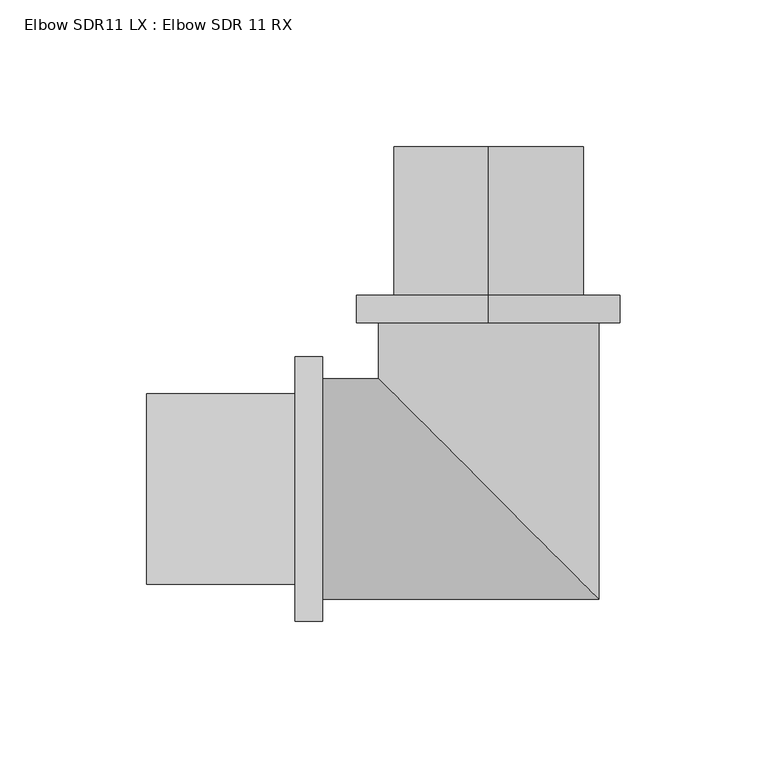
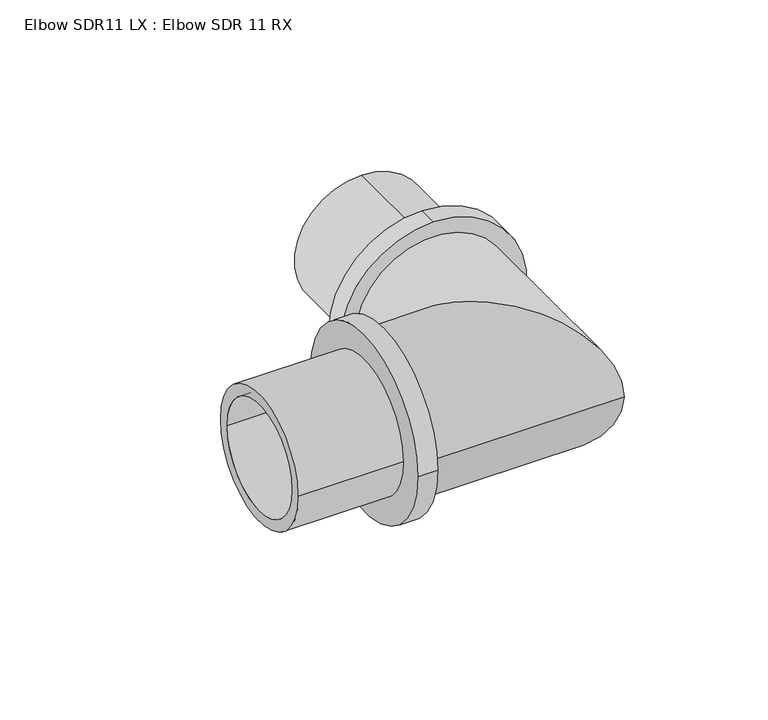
"""IFC4 building model written with IfcOpenShell, lengths in millimetres: pipe fitting geometry, Elbow SDR11 LX : Elbow SDR 11 RX."""

from ifc_helpers import new_model, si_unit, frame, origin, place, context, project, spatial, polyline, circle_curve, ellipse_curve, source, transform, mapped, element, save
from ifc_brep_helpers import plane_surface, cylinder_surface, revolved_surface, advanced_brep


def elbow_sdr11_lx_elbow_sdr_11_rx_da30d1f9(model_context):
    return source(origin(), model_context, "Body", "AdvancedBrep", [
        advanced_brep(
        [(-56.6, -37.5, 0.0), (-56.6, 37.5, 0.0), (-56.6, -27.0, 0.0), (-56.6, 27.0, 0.0), (37.5, -37.5, 0.0), (-37.5, 37.5, 0.0), (27.0, -27.0, 0.0), (-27.0, 27.0, 0.0), (37.5, 56.6, 0.0), (-37.5, 56.6, 0.0), (27.0, 56.6, 0.0), (-27.0, 56.6, 0.0)],
        [
            (0, 1, circle_curve(frame((-56.6, 0.0, 0.0), z_axis=(-1.0, 0.0, 0.0), x_axis=(0.0, 1.0, 0.0)), 37.5)),
            (1, 0, circle_curve(frame((-56.6, 0.0, 0.0), z_axis=(-1.0, 0.0, 0.0), x_axis=(0.0, 1.0, 0.0)), 37.5)),
            (2, 3, circle_curve(frame((-56.6, 0.0, 0.0), z_axis=(1.0, 0.0, 0.0), x_axis=(0.0, 1.0, 0.0)), 27.0)),
            (3, 2, circle_curve(frame((-56.6, 0.0, 0.0), z_axis=(1.0, 0.0, 0.0), x_axis=(0.0, 1.0, 0.0)), 27.0)),
            (0, 4),
            (4, 5, ellipse_curve(frame((0.0, 0.0, 0.0), z_axis=(-0.7071067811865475, -0.7071067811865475, 0.0), x_axis=(-0.7071067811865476, 0.7071067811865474, 0.0)), 53.0330086, 37.5)),
            (5, 1),
            (5, 4, ellipse_curve(frame((0.0, 0.0, 0.0), z_axis=(-0.7071067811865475, -0.7071067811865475, 0.0), x_axis=(-0.7071067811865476, 0.7071067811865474, 0.0)), 53.0330086, 37.5)),
            (2, 6),
            (6, 7, ellipse_curve(frame((0.0, 0.0, 0.0), z_axis=(0.7071067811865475, 0.7071067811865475, 0.0), x_axis=(0.7071067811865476, -0.7071067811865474, 0.0)), 38.1837662, 27.0)),
            (7, 3),
            (7, 6, ellipse_curve(frame((0.0, 0.0, 0.0), z_axis=(0.7071067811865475, 0.7071067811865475, 0.0), x_axis=(0.7071067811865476, -0.7071067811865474, 0.0)), 38.1837662, 27.0)),
            (8, 9, circle_curve(frame((0.0, 56.6, 0.0), z_axis=(0.0, 1.0, 0.0), x_axis=(-1.0, 0.0, 0.0)), 37.5)),
            (9, 8, circle_curve(frame((0.0, 56.6, 0.0), z_axis=(0.0, 1.0, 0.0), x_axis=(-1.0, 0.0, 0.0)), 37.5)),
            (10, 11, circle_curve(frame((0.0, 56.6, 0.0), z_axis=(0.0, -1.0, 0.0), x_axis=(-1.0, 0.0, 0.0)), 27.0)),
            (11, 10, circle_curve(frame((0.0, 56.6, 0.0), z_axis=(0.0, -1.0, 0.0), x_axis=(-1.0, 0.0, 0.0)), 27.0)),
            (4, 8),
            (9, 5),
            (6, 10),
            (11, 7),
        ],
        [
            plane_surface(frame((-56.6, 0.0, 0.0), z_axis=(-1.0, 0.0, 0.0), x_axis=(0.0, 0.0, 1.0))),
            cylinder_surface(frame((-56.6, 0.0, 0.0), z_axis=(-1.0, 0.0, 0.0), x_axis=(0.0, 1.0, 0.0)), 37.5),
            revolved_surface(polyline([(27.000000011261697, 27.0, 0.0), (-56.6, 27.0, 0.0)]), (-56.6, 0.0, 0.0), (1.0, 0.0, 0.0)),
            plane_surface(frame((0.0, 56.6, 0.0), z_axis=(0.0, 1.0, 0.0), x_axis=(0.0, 0.0, 1.0))),
            cylinder_surface(frame((0.0, 0.0, 0.0), z_axis=(0.0, -1.0, 0.0), x_axis=(-1.0, 0.0, 0.0)), 37.5),
            revolved_surface(polyline([(-27.0, 56.6, 0.0), (-27.0, -27.000000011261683, 0.0)]), (0.0, 0.0, 0.0), (0.0, 1.0, 0.0)),
        ],
        [
            (0, [[1, 2], [3, 4]]),
            (1, [[-1, 5, 6, 7]]),
            (1, [[-2, -7, 8, -5]]),
            (2, [[-3, 9, 10, 11]]),
            (2, [[-4, -11, 12, -9]]),
            (3, [[13, 14], [15, 16]]),
            (4, [[-6, 17, -14, 18]]),
            (4, [[-8, -18, -13, -17]]),
            (5, [[-10, 19, -16, 20]]),
            (5, [[-12, -20, -15, -19]]),
        ],
    ),
        advanced_brep(
        [(0.0, 116.5, 27.0), (0.0, 116.5, -27.0), (0.0, 56.6, -27.0), (0.0, 56.6, 27.0), (0.0, 66.0, 32.5), (0.0, 66.0, -32.5), (0.0, 116.5, -32.5), (0.0, 116.5, 32.5), (0.0, 56.6, 45.0), (0.0, 56.6, -45.0), (0.0, 66.0, -45.0), (0.0, 66.0, 45.0)],
        [
            (0, 1, circle_curve(frame((0.0, 116.5, 0.0), z_axis=(0.0, 1.0, 0.0), x_axis=(0.0, 0.0, -1.0)), 27.0)),
            (1, 2),
            (2, 3, circle_curve(frame((0.0, 56.6, 0.0), z_axis=(0.0, -1.0, 0.0), x_axis=(0.0, 0.0, -1.0)), 27.0)),
            (3, 0),
            (4, 5, circle_curve(frame((0.0, 66.0, 0.0), z_axis=(0.0, 1.0, 0.0), x_axis=(0.0, 0.0, -1.0)), 32.5)),
            (5, 6),
            (6, 7, circle_curve(frame((0.0, 116.5, 0.0), z_axis=(0.0, -1.0, 0.0), x_axis=(0.0, 0.0, -1.0)), 32.5)),
            (7, 4),
            (8, 9, circle_curve(frame((0.0, 56.6, 0.0), z_axis=(0.0, 1.0, 0.0), x_axis=(0.0, 0.0, -1.0)), 45.0)),
            (9, 10),
            (10, 11, circle_curve(frame((0.0, 66.0, 0.0), z_axis=(0.0, -1.0, 0.0), x_axis=(0.0, 0.0, -1.0)), 45.0)),
            (11, 8),
            (1, 0, circle_curve(frame((0.0, 116.5, 0.0), z_axis=(0.0, 1.0, 0.0), x_axis=(0.0, 0.0, 1.0)), 27.0)),
            (3, 2, circle_curve(frame((0.0, 56.6, 0.0), z_axis=(0.0, -1.0, 0.0), x_axis=(0.0, 0.0, 1.0)), 27.0)),
            (6, 7, circle_curve(frame((0.0, 116.5, 0.0), z_axis=(0.0, 1.0, 0.0), x_axis=(0.0, 0.0, 1.0)), 32.5)),
            (5, 4, circle_curve(frame((0.0, 66.0, 0.0), z_axis=(0.0, 1.0, 0.0), x_axis=(0.0, 0.0, 1.0)), 32.5)),
            (10, 11, circle_curve(frame((0.0, 66.0, 0.0), z_axis=(0.0, 1.0, 0.0), x_axis=(0.0, 0.0, 1.0)), 45.0)),
            (9, 8, circle_curve(frame((0.0, 56.6, 0.0), z_axis=(0.0, 1.0, 0.0), x_axis=(0.0, 0.0, 1.0)), 45.0)),
        ],
        [
            revolved_surface(polyline([(0.0, 56.6, -27.0), (0.0, 116.5, -27.0)]), (0.0, 0.0, 0.0), (0.0, -1.0, 0.0)),
            cylinder_surface(frame((0.0, 0.0, 0.0), z_axis=(0.0, -1.0, 0.0), x_axis=(0.0, 0.0, -1.0)), 32.5),
            cylinder_surface(frame((0.0, 0.0, 0.0), z_axis=(0.0, -1.0, 0.0), x_axis=(0.0, 0.0, -1.0)), 45.0),
            revolved_surface(polyline([(0.0, 56.6, 27.0), (0.0, 116.5, 27.0)]), (0.0, 0.0, 0.0), (0.0, -1.0, 0.0)),
            plane_surface(frame((0.0, 116.5, 0.0), z_axis=(0.0, 1.0, 0.0), x_axis=(0.0, 0.0, 1.0))),
            cylinder_surface(frame((0.0, 0.0, 0.0), z_axis=(0.0, -1.0, 0.0), x_axis=(0.0, 0.0, 1.0)), 32.5),
            plane_surface(frame((0.0, 66.0, 0.0), z_axis=(0.0, 1.0, 0.0), x_axis=(0.0, 0.0, 1.0))),
            cylinder_surface(frame((0.0, 0.0, 0.0), z_axis=(0.0, -1.0, 0.0), x_axis=(0.0, 0.0, 1.0)), 45.0),
            plane_surface(frame((0.0, 56.6, 0.0), z_axis=(0.0, -1.0, 0.0), x_axis=(0.0, 0.0, 1.0))),
        ],
        [
            (0, [[1, 2, 3, 4]]),
            (1, [[5, 6, 7, 8]]),
            (2, [[9, 10, 11, 12]]),
            (3, [[13, -4, 14, -2]]),
            (4, [[15, -7], [-13, -1]]),
            (5, [[16, -8, -15, -6]]),
            (6, [[17, -11], [-16, -5]]),
            (7, [[18, -12, -17, -10]]),
            (8, [[-18, -9], [-14, -3]]),
        ],
    ),
        advanced_brep(
        [(-56.6, 45.0, 0.0), (-56.6, -45.0, 0.0), (-66.0, -45.0, 0.0), (-66.0, 45.0, 0.0), (-66.0, 32.5, 0.0), (-66.0, -32.5, 0.0), (-116.5, -32.5, 0.0), (-116.5, 32.5, 0.0), (-116.5, 27.0, 0.0), (-116.5, -27.0, 0.0), (-56.6, -27.0, 0.0), (-56.6, 27.0, 0.0)],
        [
            (0, 1, circle_curve(frame((-56.6, 0.0, 0.0), z_axis=(-1.0, 0.0, 0.0), x_axis=(0.0, -1.0, 0.0)), 45.0)),
            (1, 2),
            (2, 3, circle_curve(frame((-66.0, 0.0, 0.0), z_axis=(1.0, 0.0, 0.0), x_axis=(0.0, -1.0, 0.0)), 45.0)),
            (3, 0),
            (4, 5, circle_curve(frame((-66.0, 0.0, 0.0), z_axis=(-1.0, 0.0, 0.0), x_axis=(0.0, -1.0, 0.0)), 32.5)),
            (5, 6),
            (6, 7, circle_curve(frame((-116.5, 0.0, 0.0), z_axis=(1.0, 0.0, 0.0), x_axis=(0.0, -1.0, 0.0)), 32.5)),
            (7, 4),
            (8, 9, circle_curve(frame((-116.5, 0.0, 0.0), z_axis=(-1.0, 0.0, 0.0), x_axis=(0.0, -1.0, 0.0)), 27.0)),
            (9, 10),
            (10, 11, circle_curve(frame((-56.6, 0.0, 0.0), z_axis=(1.0, 0.0, 0.0), x_axis=(0.0, -1.0, 0.0)), 27.0)),
            (11, 8),
            (0, 1, circle_curve(frame((-56.6, 0.0, 0.0), z_axis=(1.0, 0.0, 0.0), x_axis=(0.0, 1.0, 0.0)), 45.0)),
            (10, 11, circle_curve(frame((-56.6, 0.0, 0.0), z_axis=(-1.0, 0.0, 0.0), x_axis=(0.0, 1.0, 0.0)), 27.0)),
            (3, 2, circle_curve(frame((-66.0, 0.0, 0.0), z_axis=(1.0, 0.0, 0.0), x_axis=(0.0, 1.0, 0.0)), 45.0)),
            (4, 5, circle_curve(frame((-66.0, 0.0, 0.0), z_axis=(1.0, 0.0, 0.0), x_axis=(0.0, 1.0, 0.0)), 32.5)),
            (7, 6, circle_curve(frame((-116.5, 0.0, 0.0), z_axis=(1.0, 0.0, 0.0), x_axis=(0.0, 1.0, 0.0)), 32.5)),
            (8, 9, circle_curve(frame((-116.5, 0.0, 0.0), z_axis=(1.0, 0.0, 0.0), x_axis=(0.0, 1.0, 0.0)), 27.0)),
        ],
        [
            cylinder_surface(frame((0.0, 0.0, 0.0), z_axis=(1.0, 0.0, 0.0), x_axis=(0.0, -1.0, 0.0)), 45.0),
            cylinder_surface(frame((0.0, 0.0, 0.0), z_axis=(1.0, 0.0, 0.0), x_axis=(0.0, -1.0, 0.0)), 32.5),
            revolved_surface(polyline([(-56.6, -27.0, 0.0), (-116.5, -27.0, 0.0)]), (0.0, 0.0, 0.0), (1.0, 0.0, 0.0)),
            plane_surface(frame((-56.6, 0.0, 0.0), z_axis=(1.0, 0.0, 0.0), x_axis=(0.0, 1.0, 0.0))),
            cylinder_surface(frame((0.0, 0.0, 0.0), z_axis=(1.0, 0.0, 0.0), x_axis=(0.0, 1.0, 0.0)), 45.0),
            plane_surface(frame((-66.0, 0.0, 0.0), z_axis=(-1.0, 0.0, 0.0), x_axis=(0.0, 1.0, 0.0))),
            cylinder_surface(frame((0.0, 0.0, 0.0), z_axis=(1.0, 0.0, 0.0), x_axis=(0.0, 1.0, 0.0)), 32.5),
            plane_surface(frame((-116.5, 0.0, 0.0), z_axis=(-1.0, 0.0, 0.0), x_axis=(0.0, 1.0, 0.0))),
            revolved_surface(polyline([(-56.6, 27.0, 0.0), (-116.5, 27.0, 0.0)]), (0.0, 0.0, 0.0), (1.0, 0.0, 0.0)),
        ],
        [
            (0, [[1, 2, 3, 4]]),
            (1, [[5, 6, 7, 8]]),
            (2, [[9, 10, 11, 12]]),
            (3, [[13, -1], [14, -11]]),
            (4, [[-13, -4, 15, -2]]),
            (5, [[-15, -3], [16, -5]]),
            (6, [[-16, -8, 17, -6]]),
            (7, [[-17, -7], [18, -9]]),
            (8, [[-18, -12, -14, -10]]),
        ],
    ),
    ])


if __name__ == "__main__":
    model = new_model("IFC4")
    model_context = context("Model", 3, world=origin())
    ifc_project = project(units=[si_unit("LENGTHUNIT", "METRE", prefix="MILLI")], contexts=[model_context])
    site = spatial("IfcSite", under=ifc_project)
    building = spatial("IfcBuilding", under=site)
    placement = place(None, origin())
    elbow_sdr11_lx_elbow_sdr_11_rx_shape = elbow_sdr11_lx_elbow_sdr_11_rx_da30d1f9(model_context)
    element("IfcPipeFitting", 1, ObjectType="Elbow SDR11 LX : Elbow SDR 11 RX", at=placement, inside=building, context=model_context, shape_type="MappedRepresentation", body=[
        mapped(elbow_sdr11_lx_elbow_sdr_11_rx_shape, transform((0.0, 0.0, 0.0), x_axis=(1.0, 0.0, 0.0), y_axis=(0.0, 1.0, 0.0), z_axis=(0.0, 0.0, 1.0))),
    ])
    save(model, "model.ifc")
